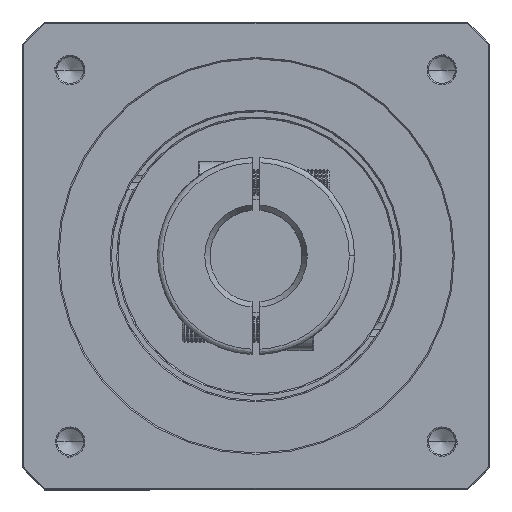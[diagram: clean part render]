
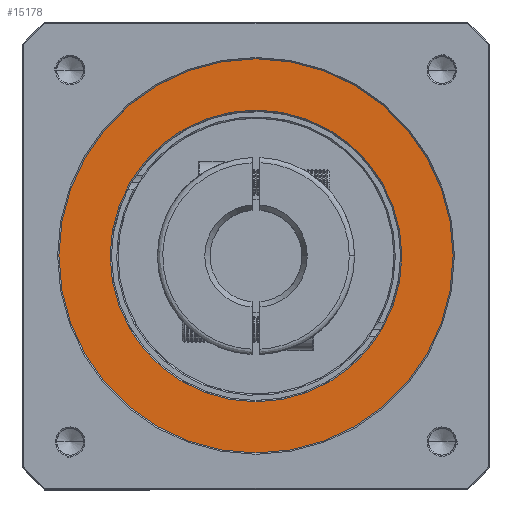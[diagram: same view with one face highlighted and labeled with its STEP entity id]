
A CAD part, top view. The second image highlights one B-rep face of the part: STEP entity #15178.
In plain terms, the highlighted planar face has unit normal (0, 0, 1).
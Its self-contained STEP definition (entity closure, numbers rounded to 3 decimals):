
#2039 = EDGE_CURVE ( 'NONE', #79706, #95240, #66247, .T. ) ;
#3375 = DIRECTION ( 'NONE',  ( 1., 0., 0. ) ) ;
#3848 = DIRECTION ( 'NONE',  ( 0., 0., -1. ) ) ;
#12850 = ORIENTED_EDGE ( 'NONE', *, *, #113896, .T. ) ;
#13842 = EDGE_LOOP ( 'NONE', ( #12850, #46808 ) ) ;
#15178 = ADVANCED_FACE ( 'NONE', ( #95919, #38929 ), #124878, .T. ) ;
#17627 = AXIS2_PLACEMENT_3D ( 'NONE', #60775, #28072, #124579 ) ;
#25604 = AXIS2_PLACEMENT_3D ( 'NONE', #39724, #125047, #125511 ) ;
#25890 = CARTESIAN_POINT ( 'NONE',  ( -90.401, 91.584, 33.108 ) ) ;
#26380 = CARTESIAN_POINT ( 'NONE',  ( -165.401, 91.584, 33.108 ) ) ;
#28072 = DIRECTION ( 'NONE',  ( 0., 0., 1. ) ) ;
#34966 = EDGE_CURVE ( 'NONE', #98186, #106793, #64087, .T. ) ;
#37190 = CARTESIAN_POINT ( 'NONE',  ( -15.401, 91.584, 33.108 ) ) ;
#38468 = AXIS2_PLACEMENT_3D ( 'NONE', #115474, #61988, #60628 ) ;
#38929 = FACE_OUTER_BOUND ( 'NONE', #77717, .T. ) ;
#39724 = CARTESIAN_POINT ( 'NONE',  ( -90.401, 91.584, 33.108 ) ) ;
#46808 = ORIENTED_EDGE ( 'NONE', *, *, #2039, .T. ) ;
#51506 = AXIS2_PLACEMENT_3D ( 'NONE', #129157, #74311, #96803 ) ;
#60628 = DIRECTION ( 'NONE',  ( 1., 0., 0. ) ) ;
#60775 = CARTESIAN_POINT ( 'NONE',  ( -90.401, 91.584, 33.108 ) ) ;
#61988 = DIRECTION ( 'NONE',  ( 0., 0., 1. ) ) ;
#64087 = CIRCLE ( 'NONE', #17627, 75. ) ;
#66247 = CIRCLE ( 'NONE', #93539, 55.5 ) ;
#69562 = ORIENTED_EDGE ( 'NONE', *, *, #91390, .T. ) ;
#70761 = CARTESIAN_POINT ( 'NONE',  ( -34.901, 91.584, 33.108 ) ) ;
#74311 = DIRECTION ( 'NONE',  ( 0., 0., 1. ) ) ;
#77717 = EDGE_LOOP ( 'NONE', ( #69562, #106454 ) ) ;
#79706 = VERTEX_POINT ( 'NONE', #81257 ) ;
#81257 = CARTESIAN_POINT ( 'NONE',  ( -145.901, 91.584, 33.108 ) ) ;
#91390 = EDGE_CURVE ( 'NONE', #106793, #98186, #106674, .T. ) ;
#91663 = CIRCLE ( 'NONE', #25604, 55.5 ) ;
#93539 = AXIS2_PLACEMENT_3D ( 'NONE', #25890, #3848, #3375 ) ;
#95240 = VERTEX_POINT ( 'NONE', #70761 ) ;
#95919 = FACE_BOUND ( 'NONE', #13842, .T. ) ;
#96803 = DIRECTION ( 'NONE',  ( 1., 0., 0. ) ) ;
#98186 = VERTEX_POINT ( 'NONE', #26380 ) ;
#106454 = ORIENTED_EDGE ( 'NONE', *, *, #34966, .T. ) ;
#106674 = CIRCLE ( 'NONE', #51506, 75. ) ;
#106793 = VERTEX_POINT ( 'NONE', #37190 ) ;
#113896 = EDGE_CURVE ( 'NONE', #95240, #79706, #91663, .T. ) ;
#115474 = CARTESIAN_POINT ( 'NONE',  ( -90.401, 91.584, 33.108 ) ) ;
#124579 = DIRECTION ( 'NONE',  ( 1., 0., 0. ) ) ;
#124878 = PLANE ( 'NONE',  #38468 ) ;
#125047 = DIRECTION ( 'NONE',  ( 0., 0., -1. ) ) ;
#125511 = DIRECTION ( 'NONE',  ( 1., 0., 0. ) ) ;
#129157 = CARTESIAN_POINT ( 'NONE',  ( -90.401, 91.584, 33.108 ) ) ;
